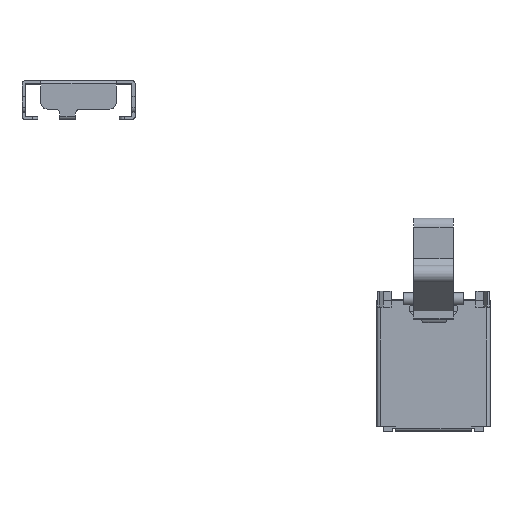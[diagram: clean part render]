
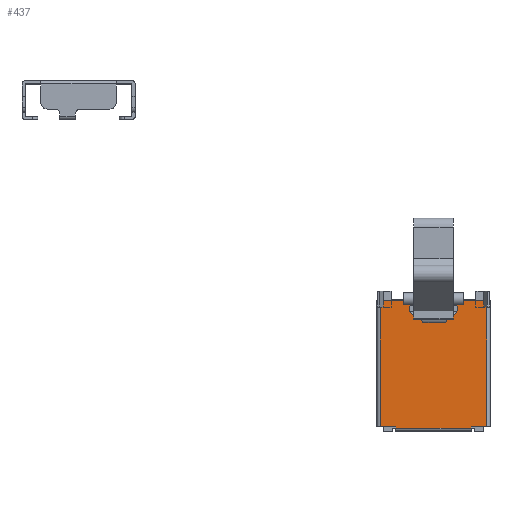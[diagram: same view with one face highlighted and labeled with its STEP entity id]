
A CAD part, top view. The second image highlights one B-rep face of the part: STEP entity #437.
In plain terms, the highlighted planar face has unit normal (0, 0, 1) as drawn and (0, 1, 0) by its records, which use the part's own axes.
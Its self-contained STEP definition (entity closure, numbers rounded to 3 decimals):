
#437 = ADVANCED_FACE( '', ( #913 ), #914, .F. );
#913 = FACE_OUTER_BOUND( '', #1446, .T. );
#914 = PLANE( '', #1447 );
#1446 = EDGE_LOOP( '', ( #2619, #2620, #2621, #2622, #2623, #2624, #2625, #2626, #2627, #2628, #2629, #2630, #2631, #2632, #2633, #2634, #2635, #2636, #2637, #2638 ) );
#1447 = AXIS2_PLACEMENT_3D( '', #2639, #2640, #2641 );
#2619 = ORIENTED_EDGE( '', *, *, #3640, .T. );
#2620 = ORIENTED_EDGE( '', *, *, #3747, .F. );
#2621 = ORIENTED_EDGE( '', *, *, #3460, .T. );
#2622 = ORIENTED_EDGE( '', *, *, #3748, .F. );
#2623 = ORIENTED_EDGE( '', *, *, #3715, .F. );
#2624 = ORIENTED_EDGE( '', *, *, #3749, .T. );
#2625 = ORIENTED_EDGE( '', *, *, #3646, .F. );
#2626 = ORIENTED_EDGE( '', *, *, #3547, .T. );
#2627 = ORIENTED_EDGE( '', *, *, #3750, .F. );
#2628 = ORIENTED_EDGE( '', *, *, #3751, .F. );
#2629 = ORIENTED_EDGE( '', *, *, #3539, .T. );
#2630 = ORIENTED_EDGE( '', *, *, #3752, .F. );
#2631 = ORIENTED_EDGE( '', *, *, #3506, .T. );
#2632 = ORIENTED_EDGE( '', *, *, #3753, .T. );
#2633 = ORIENTED_EDGE( '', *, *, #3310, .F. );
#2634 = ORIENTED_EDGE( '', *, *, #3290, .F. );
#2635 = ORIENTED_EDGE( '', *, *, #3754, .T. );
#2636 = ORIENTED_EDGE( '', *, *, #3609, .T. );
#2637 = ORIENTED_EDGE( '', *, *, #3755, .F. );
#2638 = ORIENTED_EDGE( '', *, *, #3577, .T. );
#2639 = CARTESIAN_POINT( '', ( -9.5, 6.948, 4. ) );
#2640 = DIRECTION( '', ( 0., -1., 0. ) );
#2641 = DIRECTION( '', ( 1., 0., 0. ) );
#3290 = EDGE_CURVE( '', #3965, #3967, #3968, .T. );
#3310 = EDGE_CURVE( '', #3967, #4001, #4002, .T. );
#3460 = EDGE_CURVE( '', #4258, #4256, #4259, .T. );
#3506 = EDGE_CURVE( '', #4333, #4334, #4335, .T. );
#3539 = EDGE_CURVE( '', #4388, #4386, #4389, .T. );
#3547 = EDGE_CURVE( '', #4400, #4398, #4401, .T. );
#3577 = EDGE_CURVE( '', #4444, #4446, #4448, .T. );
#3609 = EDGE_CURVE( '', #4498, #4496, #4499, .T. );
#3640 = EDGE_CURVE( '', #4446, #4545, #4547, .T. );
#3646 = EDGE_CURVE( '', #4400, #4554, #4555, .T. );
#3715 = EDGE_CURVE( '', #4642, #4644, #4645, .T. );
#3747 = EDGE_CURVE( '', #4258, #4545, #4688, .T. );
#3748 = EDGE_CURVE( '', #4644, #4256, #4689, .T. );
#3749 = EDGE_CURVE( '', #4642, #4554, #4690, .T. );
#3750 = EDGE_CURVE( '', #4691, #4398, #4692, .T. );
#3751 = EDGE_CURVE( '', #4388, #4691, #4693, .T. );
#3752 = EDGE_CURVE( '', #4333, #4386, #4694, .T. );
#3753 = EDGE_CURVE( '', #4334, #4001, #4695, .F. );
#3754 = EDGE_CURVE( '', #3965, #4498, #4696, .T. );
#3755 = EDGE_CURVE( '', #4444, #4496, #4697, .T. );
#3965 = VERTEX_POINT( '', #5038 );
#3967 = VERTEX_POINT( '', #5040 );
#3968 = LINE( '', #5041, #5042 );
#4001 = VERTEX_POINT( '', #5086 );
#4002 = LINE( '', #5087, #5088 );
#4256 = VERTEX_POINT( '', #5448 );
#4258 = VERTEX_POINT( '', #5451 );
#4259 = CIRCLE( '', #5452, 0.15 );
#4333 = VERTEX_POINT( '', #5554 );
#4334 = VERTEX_POINT( '', #5555 );
#4335 = LINE( '', #5556, #5557 );
#4386 = VERTEX_POINT( '', #5629 );
#4388 = VERTEX_POINT( '', #5632 );
#4389 = CIRCLE( '', #5633, 0.15 );
#4398 = VERTEX_POINT( '', #5645 );
#4400 = VERTEX_POINT( '', #5648 );
#4401 = CIRCLE( '', #5649, 0.1 );
#4444 = VERTEX_POINT( '', #5710 );
#4446 = VERTEX_POINT( '', #5712 );
#4448 = LINE( '', #5714, #5715 );
#4496 = VERTEX_POINT( '', #5780 );
#4498 = VERTEX_POINT( '', #5783 );
#4499 = LINE( '', #5784, #5785 );
#4545 = VERTEX_POINT( '', #5847 );
#4547 = LINE( '', #5850, #5851 );
#4554 = VERTEX_POINT( '', #5861 );
#4555 = LINE( '', #5862, #5863 );
#4642 = VERTEX_POINT( '', #5994 );
#4644 = VERTEX_POINT( '', #5997 );
#4645 = LINE( '', #5998, #5999 );
#4688 = LINE( '', #6062, #6063 );
#4689 = LINE( '', #6064, #6065 );
#4690 = CIRCLE( '', #6066, 0.1 );
#4691 = VERTEX_POINT( '', #6067 );
#4692 = LINE( '', #6068, #6069 );
#4693 = LINE( '', #6070, #6071 );
#4694 = LINE( '', #6072, #6073 );
#4695 = LINE( '', #6074, #6075 );
#4696 = LINE( '', #6076, #6077 );
#4697 = LINE( '', #6078, #6079 );
#5038 = CARTESIAN_POINT( '', ( -12.5, 6.948, 4.05 ) );
#5040 = CARTESIAN_POINT( '', ( -12.5, 6.948, 4. ) );
#5041 = CARTESIAN_POINT( '', ( -12.5, 6.948, 4. ) );
#5042 = VECTOR( '', #6349, 1000. );
#5086 = CARTESIAN_POINT( '', ( -13., 6.948, 4. ) );
#5087 = CARTESIAN_POINT( '', ( -9.5, 6.948, 4. ) );
#5088 = VECTOR( '', #6376, 1000. );
#5448 = CARTESIAN_POINT( '', ( -10.7, 6.948, 0.45 ) );
#5451 = CARTESIAN_POINT( '', ( -10.55, 6.948, 0.3 ) );
#5452 = AXIS2_PLACEMENT_3D( '', #6526, #6527, #6528 );
#5554 = CARTESIAN_POINT( '', ( -12.05, 6.948, 0. ) );
#5555 = CARTESIAN_POINT( '', ( -13., 6.948, 0. ) );
#5556 = CARTESIAN_POINT( '', ( -9.5, 6.948, 0. ) );
#5557 = VECTOR( '', #6575, 1000. );
#5629 = CARTESIAN_POINT( '', ( -12.05, 6.948, 0.3 ) );
#5632 = CARTESIAN_POINT( '', ( -11.9, 6.948, 0.45 ) );
#5633 = AXIS2_PLACEMENT_3D( '', #6607, #6608, #6609 );
#5645 = CARTESIAN_POINT( '', ( -11.675, 6.948, 0.6 ) );
#5648 = CARTESIAN_POINT( '', ( -11.575, 6.948, 0.7 ) );
#5649 = AXIS2_PLACEMENT_3D( '', #6617, #6618, #6619 );
#5710 = CARTESIAN_POINT( '', ( -9.6, 6.948, 4. ) );
#5712 = CARTESIAN_POINT( '', ( -9.6, 6.948, 0. ) );
#5714 = CARTESIAN_POINT( '', ( -9.6, 6.948, 4. ) );
#5715 = VECTOR( '', #6653, 1000. );
#5780 = CARTESIAN_POINT( '', ( -10.1, 6.948, 4. ) );
#5783 = CARTESIAN_POINT( '', ( -10.1, 6.948, 4.05 ) );
#5784 = CARTESIAN_POINT( '', ( -10.1, 6.948, 4. ) );
#5785 = VECTOR( '', #6690, 1000. );
#5847 = CARTESIAN_POINT( '', ( -10.55, 6.948, 0. ) );
#5850 = CARTESIAN_POINT( '', ( -9.5, 6.948, 0. ) );
#5851 = VECTOR( '', #6726, 1000. );
#5861 = CARTESIAN_POINT( '', ( -10.975, 6.948, 0.7 ) );
#5862 = CARTESIAN_POINT( '', ( -11.675, 6.948, 0.7 ) );
#5863 = VECTOR( '', #6730, 1000. );
#5994 = CARTESIAN_POINT( '', ( -10.875, 6.948, 0.6 ) );
#5997 = CARTESIAN_POINT( '', ( -10.875, 6.948, 0.45 ) );
#5998 = CARTESIAN_POINT( '', ( -10.875, 6.948, 0.7 ) );
#5999 = VECTOR( '', #6794, 1000. );
#6062 = CARTESIAN_POINT( '', ( -10.55, 6.948, 0.45 ) );
#6063 = VECTOR( '', #6824, 1000. );
#6064 = CARTESIAN_POINT( '', ( -10.875, 6.948, 0.45 ) );
#6065 = VECTOR( '', #6825, 1000. );
#6066 = AXIS2_PLACEMENT_3D( '', #6826, #6827, #6828 );
#6067 = CARTESIAN_POINT( '', ( -11.675, 6.948, 0.45 ) );
#6068 = CARTESIAN_POINT( '', ( -11.675, 6.948, 0.45 ) );
#6069 = VECTOR( '', #6829, 1000. );
#6070 = CARTESIAN_POINT( '', ( -12.05, 6.948, 0.45 ) );
#6071 = VECTOR( '', #6830, 1000. );
#6072 = CARTESIAN_POINT( '', ( -12.05, 6.948, 0. ) );
#6073 = VECTOR( '', #6831, 1000. );
#6074 = CARTESIAN_POINT( '', ( -13., 6.948, 4. ) );
#6075 = VECTOR( '', #6832, 1000. );
#6076 = CARTESIAN_POINT( '', ( -9.5, 6.948, 4.05 ) );
#6077 = VECTOR( '', #6833, 1000. );
#6078 = CARTESIAN_POINT( '', ( -9.5, 6.948, 4. ) );
#6079 = VECTOR( '', #6834, 1000. );
#6349 = DIRECTION( '', ( 0., 0., -1. ) );
#6376 = DIRECTION( '', ( -1., 0., 0. ) );
#6526 = CARTESIAN_POINT( '', ( -10.7, 6.948, 0.3 ) );
#6527 = DIRECTION( '', ( 0., -1., 0. ) );
#6528 = DIRECTION( '', ( 1., 0., 0. ) );
#6575 = DIRECTION( '', ( -1., 0., 0. ) );
#6607 = CARTESIAN_POINT( '', ( -11.9, 6.948, 0.3 ) );
#6608 = DIRECTION( '', ( 0., -1., 0. ) );
#6609 = DIRECTION( '', ( 1., 0., 0. ) );
#6617 = CARTESIAN_POINT( '', ( -11.575, 6.948, 0.6 ) );
#6618 = DIRECTION( '', ( 0., -1., 0. ) );
#6619 = DIRECTION( '', ( 1., 0., 0. ) );
#6653 = DIRECTION( '', ( 0., 0., -1. ) );
#6690 = DIRECTION( '', ( 0., 0., -1. ) );
#6726 = DIRECTION( '', ( -1., 0., 0. ) );
#6730 = DIRECTION( '', ( 1., 0., 0. ) );
#6794 = DIRECTION( '', ( 0., 0., -1. ) );
#6824 = DIRECTION( '', ( 0., 0., -1. ) );
#6825 = DIRECTION( '', ( 1., 0., 0. ) );
#6826 = CARTESIAN_POINT( '', ( -10.975, 6.948, 0.6 ) );
#6827 = DIRECTION( '', ( 0., -1., 0. ) );
#6828 = DIRECTION( '', ( 1., 0., 0. ) );
#6829 = DIRECTION( '', ( 0., 0., 1. ) );
#6830 = DIRECTION( '', ( 1., 0., 0. ) );
#6831 = DIRECTION( '', ( 0., 0., 1. ) );
#6832 = DIRECTION( '', ( 0., 0., -1. ) );
#6833 = DIRECTION( '', ( 1., 0., 0. ) );
#6834 = DIRECTION( '', ( -1., 0., 0. ) );
